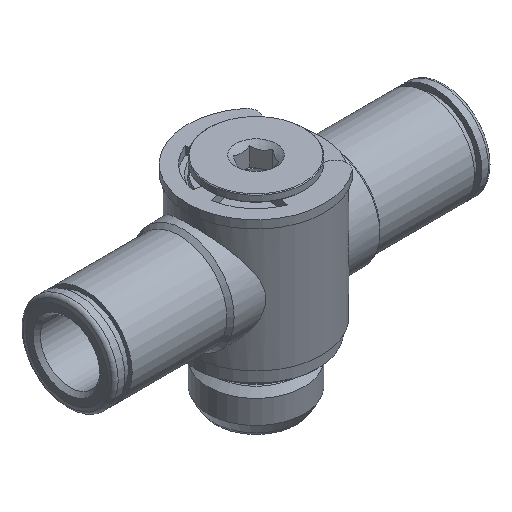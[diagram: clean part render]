
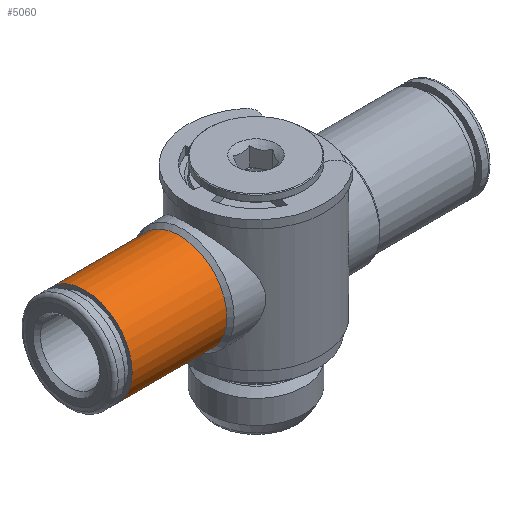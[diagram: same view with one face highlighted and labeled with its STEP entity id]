
A CAD part, isometric view. The second image highlights one B-rep face of the part: STEP entity #5060.
In plain terms, the highlighted cylindrical face has radius 6.5 mm (diameter 13 mm), a full revolution.
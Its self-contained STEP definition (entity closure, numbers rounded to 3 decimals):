
#5060=ADVANCED_FACE('', (#5070,#5080), #5090, .T.);
#13140=AXIS2_PLACEMENT_3D('Ax2Pl3d', #13150, #13160, #13170);
#15540=AXIS2_PLACEMENT_3D('Ax2Pl3d', #15550, #15560, #15570);
#15580=AXIS2_PLACEMENT_3D('Ax2Pl3d', #15590, #15600, #15610);
#13150=CARTESIAN_POINT('HicPkt', (7.662,13.577,
13.236));
#71150=CARTESIAN_POINT('', (7.662,7.077,13.236));
#15550=CARTESIAN_POINT('HicPkt', (20.662,13.577,
13.236));
#71480=CARTESIAN_POINT('', (20.662,20.077,13.236));
#15590=CARTESIAN_POINT('HicPkt', (7.662,13.577,
13.236));
#72370=CIRCLE('Circle', #13140, 6.5);
#72670=CIRCLE('Circle', #15540, 6.5);
#5090=CYLINDRICAL_SURFACE('Zyl', #15580, 6.5);
#13160=DIRECTION('Axis', (1.,0.,0.));
#13170=DIRECTION('RefDirection', (0.,0.,-1.));
#15560=DIRECTION('Axis', (1.,0.,0.));
#15570=DIRECTION('RefDirection', (0.,0.,-1.));
#15600=DIRECTION('Axis', (1.,0.,0.));
#15610=DIRECTION('RefDirection', (0.,0.,-1.));
#81470=EDGE_CURVE('', #81480, #81480, #72370, .T.);
#82160=EDGE_CURVE('', #82170, #82170, #72670, .T.);
#88000=EDGE_LOOP('Edge_loop', (#88010));
#88020=EDGE_LOOP('Edge_loop', (#88030));
#5080=FACE_BOUND('', #88020, .T.);
#5070=FACE_OUTER_BOUND('Face_outer_bound', #88000, .T.);
#88010=ORIENTED_EDGE('', *, *, #82160, .F.);
#88030=ORIENTED_EDGE('', *, *, #81470, .T.);
#81480=VERTEX_POINT('', #71150);
#82170=VERTEX_POINT('', #71480);
